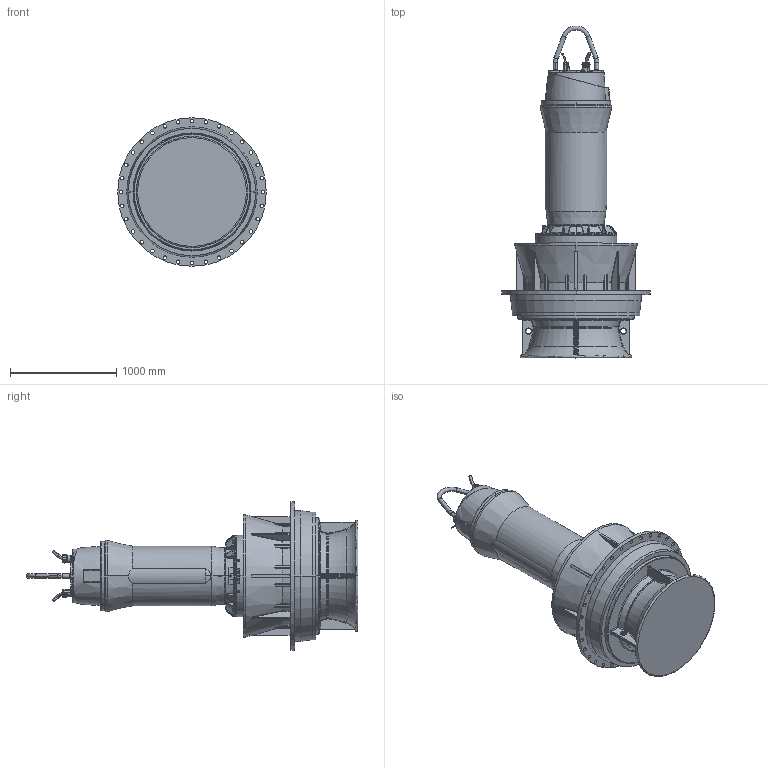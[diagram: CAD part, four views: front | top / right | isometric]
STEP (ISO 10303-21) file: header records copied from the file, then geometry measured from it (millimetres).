
FILE_DESCRIPTION (( 'STEP AP214' ), '1' );
FILE_NAME ('PE7_VUPX1000_DIN_A.STEP', '2017-05-03T11:11:33', ( '' ), ( '' ), 'SwSTEP 2.0', 'SolidWorks 2017', '' );
FILE_SCHEMA (( 'AUTOMOTIVE_DESIGN' ));
Length unit declared in the file: millimetre
Products named in the file (1): PE7_VUPX1000_DIN_A
Bounding box: 1400 x 3128 x 1400 mm (x, y, z)
Volume: 1303439061.5 mm3; surface area: 13694924.5 mm2
Topology: 4 solids, 25 shells, 3526 faces, 8674 edges, 5025 vertices
Faces by surface type: cylinder 885, bspline 827, plane 819, torus 462, cone 368, sphere 165
Entity records: 186716 total; most frequent: CARTESIAN_POINT 71865, ORIENTED_EDGE 16796, DIRECTION 14805, EDGE_CURVE 8398, AXIS2_PLACEMENT_3D 6090, VERTEX_POINT 5020, EDGE_LOOP 3772, UNCERTAINTY_MEASURE_WITH_UNIT 3532
